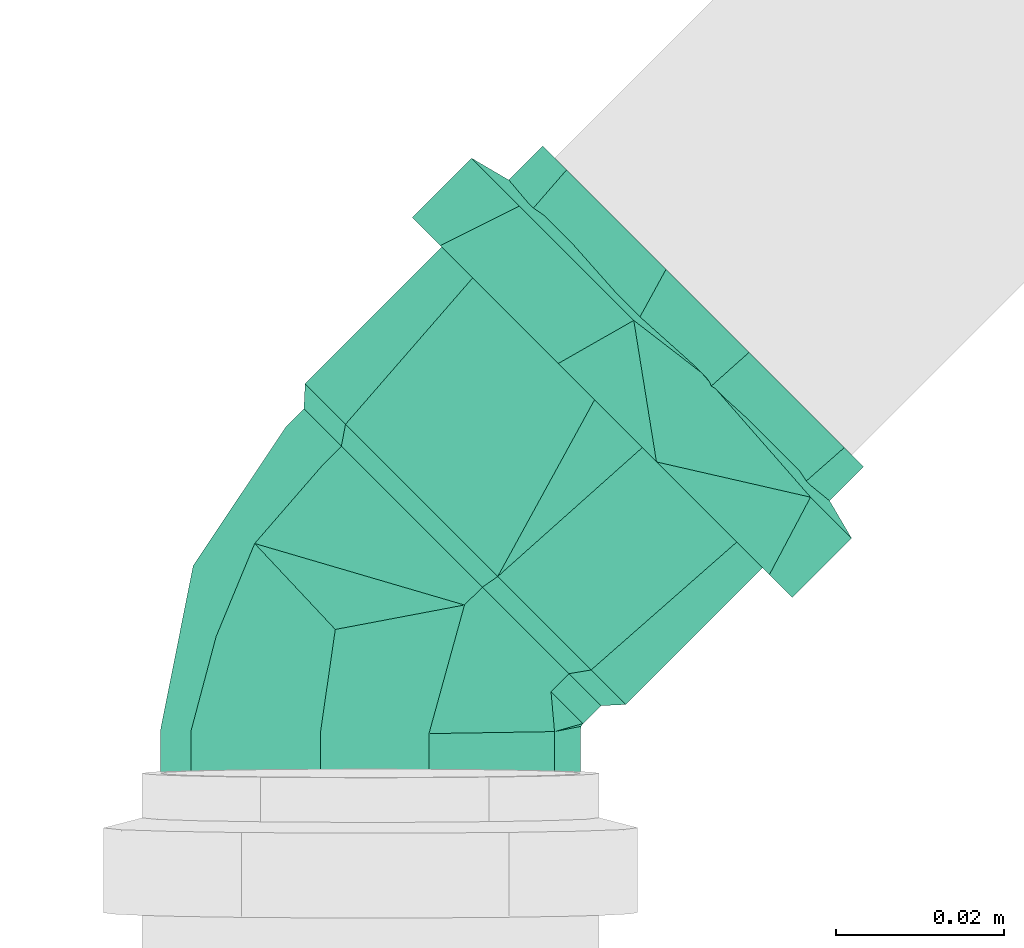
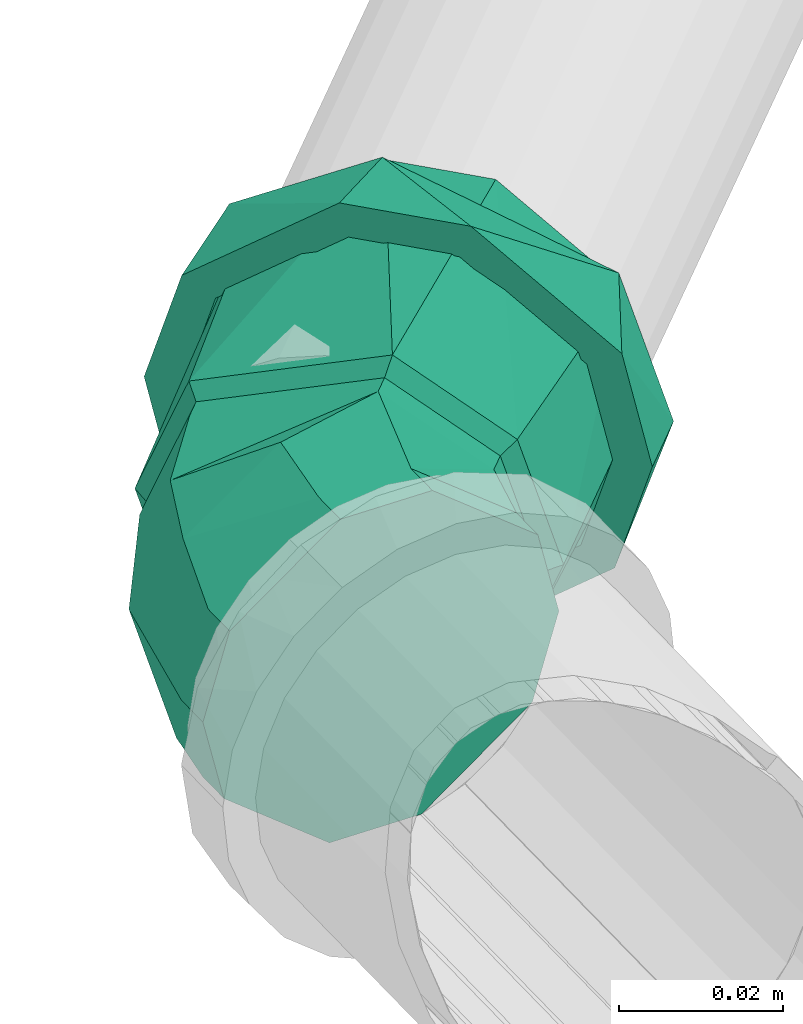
# One storey, part 64 of 589: 1 flow fitting.
"""IFC2X3 building model written with IfcOpenShell, lengths in millimetres."""

from ifc_helpers import new_model, entity, si_unit, converted_unit, derived_unit, direction, frame, origin, place, context, subcontext, project, spatial, faceted_brep, source, transform, mapped, material, type_object, type_shapes, element, save


model = new_model("IFC2X3")

# Units and contexts
model_context = context("Model", 3, precision=0.01, world=origin(), true_north=direction((6.123031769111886e-17, 1.0)))
body_context = subcontext(model_context, "Body", "Model", "MODEL_VIEW")
ifc_project = project(units=[si_unit("LENGTHUNIT", "METRE", prefix="MILLI"), si_unit("AREAUNIT", "SQUARE_METRE"), si_unit("VOLUMEUNIT", "CUBIC_METRE"), converted_unit("PLANEANGLEUNIT", "DEGREE", entity("IfcRatioMeasure", 0.017453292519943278), si_unit("PLANEANGLEUNIT", "RADIAN"), dimensions=[0, 0, 0, 0, 0, 0, 0]), si_unit("MASSUNIT", "GRAM", prefix="KILO"), derived_unit("MASSDENSITYUNIT", [(si_unit("MASSUNIT", "GRAM", prefix="KILO"), 1), (si_unit("LENGTHUNIT", "METRE"), -3)]), derived_unit("IONCONCENTRATIONUNIT", [(si_unit("MASSUNIT", "GRAM", prefix="KILO"), 1), (si_unit("LENGTHUNIT", "METRE"), -3)]), derived_unit("MOMENTOFINERTIAUNIT", [(si_unit("LENGTHUNIT", "METRE"), 4)]), si_unit("TIMEUNIT", "SECOND"), si_unit("FREQUENCYUNIT", "HERTZ"), si_unit("THERMODYNAMICTEMPERATUREUNIT", "DEGREE_CELSIUS"), derived_unit("THERMALTRANSMITTANCEUNIT", [(si_unit("MASSUNIT", "GRAM", prefix="KILO"), 1), (si_unit("THERMODYNAMICTEMPERATUREUNIT", "KELVIN"), -1), (si_unit("TIMEUNIT", "SECOND"), -3)]), derived_unit("THERMALCONDUCTANCEUNIT", [(si_unit("MASSUNIT", "GRAM", prefix="KILO"), 1), (si_unit("THERMODYNAMICTEMPERATUREUNIT", "KELVIN"), -1), (si_unit("TIMEUNIT", "SECOND"), -3), (si_unit("LENGTHUNIT", "METRE"), 1)]), derived_unit("VOLUMETRICFLOWRATEUNIT", [(si_unit("LENGTHUNIT", "METRE"), 3), (si_unit("TIMEUNIT", "SECOND"), -1)]), derived_unit("MASSFLOWRATEUNIT", [(si_unit("MASSUNIT", "GRAM", prefix="KILO"), 1), (si_unit("TIMEUNIT", "SECOND"), -1)]), derived_unit("ROTATIONALFREQUENCYUNIT", [(si_unit("TIMEUNIT", "SECOND"), -1)]), si_unit("ELECTRICCURRENTUNIT", "AMPERE"), si_unit("ELECTRICVOLTAGEUNIT", "VOLT"), si_unit("POWERUNIT", "WATT"), si_unit("FORCEUNIT", "NEWTON", prefix="KILO"), si_unit("ILLUMINANCEUNIT", "LUX"), si_unit("LUMINOUSFLUXUNIT", "LUMEN"), si_unit("LUMINOUSINTENSITYUNIT", "CANDELA"), derived_unit("USERDEFINED", [(si_unit("MASSUNIT", "GRAM", prefix="KILO"), -1), (si_unit("LENGTHUNIT", "METRE"), -2), (si_unit("TIMEUNIT", "SECOND"), 3), (si_unit("LUMINOUSFLUXUNIT", "LUMEN"), 1)]), derived_unit("USERDEFINED", [(si_unit("MASSUNIT", "GRAM", prefix="KILO"), 1), (si_unit("TIMEUNIT", "SECOND"), -3), (si_unit("LENGTHUNIT", "METRE"), 3), (si_unit("ELECTRICCURRENTUNIT", "AMPERE"), -2)]), derived_unit("SOUNDPOWERUNIT", [(si_unit("MASSUNIT", "GRAM", prefix="KILO"), 1), (si_unit("TIMEUNIT", "SECOND"), -3), (si_unit("LENGTHUNIT", "METRE"), 2)]), derived_unit("SOUNDPRESSUREUNIT", [(si_unit("MASSUNIT", "GRAM", prefix="KILO"), 1), (si_unit("LENGTHUNIT", "METRE"), -1), (si_unit("TIMEUNIT", "SECOND"), -2)]), derived_unit("LINEARVELOCITYUNIT", [(si_unit("LENGTHUNIT", "METRE"), 1), (si_unit("TIMEUNIT", "SECOND"), -1)]), si_unit("PRESSUREUNIT", "PASCAL"), derived_unit("USERDEFINED", [(si_unit("MASSUNIT", "GRAM", prefix="KILO"), 1), (si_unit("LENGTHUNIT", "METRE"), -2), (si_unit("TIMEUNIT", "SECOND"), -2)]), derived_unit("LINEARFORCEUNIT", [(si_unit("MASSUNIT", "GRAM", prefix="KILO"), 1), (si_unit("TIMEUNIT", "SECOND"), -2)]), derived_unit("PLANARFORCEUNIT", [(si_unit("MASSUNIT", "GRAM", prefix="KILO"), 1), (si_unit("LENGTHUNIT", "METRE"), -1), (si_unit("TIMEUNIT", "SECOND"), -2)]), derived_unit("SPECIFICHEATCAPACITYUNIT", [(si_unit("THERMODYNAMICTEMPERATUREUNIT", "KELVIN"), -1), (si_unit("LENGTHUNIT", "METRE"), 2), (si_unit("TIMEUNIT", "SECOND"), -2)]), derived_unit("HEATINGVALUEUNIT", [(si_unit("LENGTHUNIT", "METRE"), 2), (si_unit("TIMEUNIT", "SECOND"), -2)]), derived_unit("VAPORPERMEABILITYUNIT", [(si_unit("LENGTHUNIT", "METRE"), -1), (si_unit("TIMEUNIT", "SECOND"), 1)]), derived_unit("DYNAMICVISCOSITYUNIT", [(si_unit("MASSUNIT", "GRAM", prefix="KILO"), 1), (si_unit("TIMEUNIT", "SECOND"), -1), (si_unit("LENGTHUNIT", "METRE"), -1)]), derived_unit("THERMALEXPANSIONCOEFFICIENTUNIT", [(si_unit("THERMODYNAMICTEMPERATUREUNIT", "KELVIN"), -1)]), derived_unit("MODULUSOFELASTICITYUNIT", [(si_unit("MASSUNIT", "GRAM", prefix="KILO"), 1), (si_unit("LENGTHUNIT", "METRE"), -1), (si_unit("TIMEUNIT", "SECOND"), -2)]), derived_unit("ISOTHERMALMOISTURECAPACITYUNIT", [(si_unit("LENGTHUNIT", "METRE"), 3), (si_unit("MASSUNIT", "GRAM", prefix="KILO"), -1)]), derived_unit("MOISTUREDIFFUSIVITYUNIT", [(si_unit("TIMEUNIT", "SECOND"), -1), (si_unit("LENGTHUNIT", "METRE"), 2)])], contexts=[model_context])

# Site, building, storey
site_placement = place(None, origin())
site = spatial("IfcSite", under=ifc_project, at=site_placement, Name="Default", CompositionType="ELEMENT")
building_placement = place(site_placement, origin())
building = spatial("IfcBuilding", under=site, at=building_placement, CompositionType="ELEMENT")
storey_placement = place(building_placement, frame((0.0, 0.0, 100.0)))
storey = spatial("IfcBuildingStorey", under=building, at=storey_placement, Name="TÉRREO", CompositionType="ELEMENT", Elevation=100.0)

# Flow fitting
ifc_material = material(Name="PVC Série Normal")
pipe_fitting_type = type_object("IfcPipeFittingType", Name="PVC Esgoto_Joelho 45_90_Rodrigo MEP:a. Série Normal", PredefinedType="NOTDEFINED", material=ifc_material)
shared_shape = source(origin(), body_context, "Body", "Brep", [
    faceted_brep([(3.0396216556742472, 12.193302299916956, 24.14814565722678), (-7.696517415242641, 22.925149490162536, 12.500000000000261), (-10.06534948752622, 25.29303459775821, 0.0), (-7.696517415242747, 22.925149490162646, -12.499999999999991), (3.039621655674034, 12.19330229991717, -24.1481456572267), (12.192085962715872, 3.0444967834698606, -24.14814565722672), (22.928225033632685, -7.687350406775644, -12.500000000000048), (25.297057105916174, -10.05523551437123, 0.0), (22.928225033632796, -7.687350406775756, 12.499999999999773), (12.192085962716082, 3.0444967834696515, 24.148145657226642), (26.60444512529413, -4.009660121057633, -12.500000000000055), (15.868306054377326, 6.722187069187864, -24.14814565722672), (6.7158417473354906, 15.870992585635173, -24.1481456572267), (-4.020297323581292, 26.602839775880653, -12.499999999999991), (-6.389129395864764, 28.970724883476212, 0.0), (-4.020297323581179, 26.602839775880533, 12.500000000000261), (6.715841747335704, 15.87099258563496, 24.14814565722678), (15.868306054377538, 6.722187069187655, 24.148145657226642), (26.604445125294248, -4.009660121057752, 12.499999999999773), (28.973277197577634, -6.377545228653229, 0.0)], [[[0, 1, 2, 3, 4, 5, 6, 7, 8, 9]], [[10, 11, 12, 13, 14, 15, 16, 17, 18, 19]], [[7, 19, 18, 8]], [[8, 18, 17, 9]], [[17, 16, 0, 9]], [[0, 16, 15, 1]], [[1, 15, 14, 2]], [[2, 14, 13, 3]], [[3, 13, 12, 4]], [[12, 11, 5, 4]], [[5, 11, 10, 6]], [[6, 10, 19, 7]]]),
    faceted_brep([(-55.9725976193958, -6.988114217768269, -26.07999730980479), (-55.9725976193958, -6.47047612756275, -24.14814565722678), (-55.9725976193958, 6.4704761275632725, -24.148145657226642), (-55.9725976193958, -23.382685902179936, -13.499999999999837), (-55.9725976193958, 6.988114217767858, -26.0799973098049), (-55.9725976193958, -21.650635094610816, -12.500000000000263), (-55.9725976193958, -25.0, 0.0), (-55.9725976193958, -27.0, 0.0), (-55.9725976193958, -21.650635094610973, 12.499999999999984), (-55.9725976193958, -23.382685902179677, 13.500000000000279), (-55.9725976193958, -6.470476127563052, 24.1481456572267), (-55.9725976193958, -6.98811421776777, 26.079997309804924), (-55.9725976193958, 6.470476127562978, 24.14814565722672), (-55.9725976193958, 6.988114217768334, 26.07999730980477), (-55.9725976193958, 21.650635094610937, 12.500000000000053), (-55.9725976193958, 23.38268590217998, 13.499999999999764), (-55.9725976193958, 27.0, 0.0), (-55.9725976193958, 25.0, 0.0), (-55.9725976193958, 23.382685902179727, -13.500000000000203), (-55.9725976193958, 21.6506350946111, -12.499999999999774), (-15.9725976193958, 21.650635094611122, -12.499999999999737), (-15.9725976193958, 25.0, 0.0), (-15.9725976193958, 6.4704761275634, -24.148145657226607), (-15.9725976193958, -6.470476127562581, -24.148145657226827), (-15.9725976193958, -21.650635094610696, -12.500000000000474), (-15.9725976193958, -25.0, 0.0), (-15.9725976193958, -21.65063509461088, 12.500000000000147), (-15.9725976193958, -6.470476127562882, 24.14814565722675), (-15.9725976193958, 6.470476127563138, 24.148145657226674), (-15.9725976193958, 21.650635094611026, 12.499999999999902), (-15.9725976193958, 27.0, 0.0), (-15.972597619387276, 20.682232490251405, 17.356418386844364), (-15.972597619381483, 4.685536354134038, 26.59033187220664), (-15.972597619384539, -20.686585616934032, 17.35122979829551), (-15.9725976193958, -27.0, 0.0), (-15.972597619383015, -8.000524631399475, 21.970780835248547), (-15.972597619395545, -20.686585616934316, -17.35122979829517), (-15.972597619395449, -4.6922062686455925, -26.589155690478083), (-15.972597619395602, 20.682232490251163, -17.356418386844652), (-15.972597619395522, 7.995013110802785, -21.972787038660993), (-13.772597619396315, -4.338459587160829, -24.620677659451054), (-13.772597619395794, 25.0, 0.0), (-13.772597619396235, 19.154245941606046, -16.065953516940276), (-13.772597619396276, 7.40789317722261, -20.34331558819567), (-13.772597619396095, -19.15021526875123, -16.07075776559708), (-13.772597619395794, -25.0, 0.0), (-13.772597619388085, -19.150215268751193, 16.070757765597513), (-13.772597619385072, -7.402789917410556, 20.34517318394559), (-13.772597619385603, 19.154245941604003, 16.065953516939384), (-13.772597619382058, 4.344635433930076, 24.619588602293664), (-10.7725976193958, 25.0, 0.0), (-10.772597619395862, 19.151286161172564, 16.069481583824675), (-10.77259761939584, 4.341396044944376, 24.62016003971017), (-10.772597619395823, -7.404832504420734, 20.344954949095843), (-10.772597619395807, -19.15106105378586, 16.069749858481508), (-10.7725976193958, -25.0, 0.0), (-10.772597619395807, -19.15106105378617, -16.069749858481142), (-10.772597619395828, -4.341051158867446, -24.62022085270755), (-10.772597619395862, 19.15128616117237, -16.069481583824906), (-10.772597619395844, 7.405117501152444, -20.344851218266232), (22.928225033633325, -7.687350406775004, -12.500000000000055), (12.192085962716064, 3.0444967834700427, -24.14814565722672), (3.0396216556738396, 12.193302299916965, -24.1481456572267), (-7.696517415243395, 22.925149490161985, -12.499999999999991), (-10.065349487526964, 25.29303459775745, 0.0), (-7.696517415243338, 22.92514949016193, 12.500000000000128), (3.0396216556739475, 12.193302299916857, 24.14814565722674), (12.192085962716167, 3.044496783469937, 24.148145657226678), (22.928225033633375, -7.687350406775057, 12.499999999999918), (25.297057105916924, -10.055235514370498, 0.0), (1.706656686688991, -18.229960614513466, 15.057518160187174), (8.748967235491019, -21.11590501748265, 0.0), (12.77252502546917, -13.644950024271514, 14.852748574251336), (-3.6070347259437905, -23.574308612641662, 0.0), (2.15897029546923, -4.457370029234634, 23.97388512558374), (-10.389821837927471, 25.0761587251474, 0.0), (19.22293436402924, -14.11515207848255, 0.0), (12.769036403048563, -13.641969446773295, -14.858628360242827), (2.121435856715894, -4.511954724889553, -23.963323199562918), (1.7564938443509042, -18.24244270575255, -15.023571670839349)], [[[0, 1, 2]], [[1, 0, 3]], [[2, 4, 0]], [[3, 5, 1]], [[3, 6, 5]], [[6, 3, 7]], [[8, 6, 7]], [[8, 7, 9]], [[9, 10, 8]], [[9, 11, 10]], [[10, 11, 12]], [[13, 12, 11]], [[13, 14, 12]], [[14, 13, 15]], [[16, 14, 15]], [[17, 14, 16]], [[18, 17, 16]], [[18, 19, 17]], [[19, 18, 4]], [[4, 2, 19]], [[20, 21, 17, 19]], [[22, 20, 19, 2]], [[2, 1, 23, 22]], [[24, 23, 1, 5]], [[25, 24, 5, 6]], [[26, 25, 6, 8]], [[27, 26, 8, 10]], [[10, 12, 28, 27]], [[29, 28, 12, 14]], [[21, 29, 14, 17]], [[16, 15, 30]], [[15, 31, 30]], [[31, 15, 13]], [[31, 13, 32]], [[33, 11, 9]], [[34, 9, 7]], [[11, 33, 35, 32]], [[33, 9, 34]], [[11, 32, 13]], [[7, 3, 34]], [[3, 36, 34]], [[36, 3, 0]], [[36, 0, 37]], [[38, 4, 18]], [[30, 18, 16]], [[4, 38, 39, 37]], [[38, 18, 30]], [[4, 37, 0]], [[28, 29, 21, 20, 22, 23, 24, 25, 26, 27]], [[39, 40, 37]], [[41, 42, 30]], [[30, 42, 38]], [[38, 43, 39]], [[44, 45, 36]], [[38, 42, 43]], [[36, 37, 44]], [[34, 36, 45]], [[40, 39, 43]], [[44, 37, 40]], [[45, 46, 33]], [[33, 34, 45]], [[46, 35, 33]], [[46, 47, 35]], [[47, 32, 35]], [[48, 41, 30]], [[48, 31, 49]], [[31, 48, 30]], [[32, 47, 49]], [[49, 31, 32]], [[41, 48, 50]], [[48, 51, 50]], [[51, 48, 49]], [[51, 49, 52]], [[52, 47, 53]], [[46, 54, 53]], [[46, 45, 54]], [[49, 47, 52]], [[54, 45, 55]], [[47, 46, 53]], [[45, 44, 56]], [[45, 56, 55]], [[56, 44, 57]], [[58, 59, 43]], [[44, 40, 57]], [[40, 59, 57]], [[58, 43, 42]], [[42, 50, 58]], [[50, 42, 41]], [[59, 40, 43]], [[60, 61, 62, 63, 64, 65, 66, 67, 68, 69]], [[51, 52, 66]], [[70, 71, 72]], [[54, 55, 73]], [[70, 72, 74]], [[50, 65, 75]], [[51, 65, 50]], [[52, 70, 74]], [[76, 69, 68]], [[71, 70, 73]], [[72, 76, 68]], [[73, 70, 54]], [[76, 72, 71]], [[67, 72, 68]], [[75, 65, 64]], [[70, 52, 53, 54]], [[52, 74, 66]], [[66, 65, 51]], [[67, 74, 72]], [[67, 66, 74]], [[60, 76, 77]], [[73, 55, 56]], [[78, 58, 62]], [[78, 57, 59, 58]], [[79, 73, 56]], [[57, 78, 79]], [[61, 77, 78]], [[58, 50, 63]], [[75, 64, 63]], [[57, 79, 56]], [[60, 69, 76]], [[63, 62, 58]], [[79, 78, 77]], [[61, 60, 77]], [[76, 71, 77]], [[73, 79, 71]], [[79, 77, 71]], [[62, 61, 78]], [[63, 50, 75]]]),
    faceted_brep([(-38.9725976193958, 6.9881142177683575, -26.07999730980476), (-38.9725976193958, -6.988114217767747, -26.079997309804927), (-38.9725976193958, -8.282209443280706, -30.909626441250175), (-38.9725976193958, 8.28220944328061, -30.9096264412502), (-38.9725976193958, 23.38268590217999, -13.499999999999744), (-38.9725976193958, -27.712812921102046, -16.0), (-38.9725976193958, -23.38268590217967, -13.500000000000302), (-38.9725976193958, -27.0, 0.0), (-38.9725976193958, -32.0, 0.0), (-38.9725976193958, -23.382685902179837, 13.500000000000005), (-38.9725976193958, -27.712812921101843, 16.0), (-38.9725976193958, -6.988114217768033, 26.07999730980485), (-38.9725976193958, -8.28220944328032, 30.909626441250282), (-38.9725976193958, 6.988114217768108, 26.07999730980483), (-38.9725976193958, 8.282209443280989, 30.909626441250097), (-38.9725976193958, 23.382685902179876, 13.499999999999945), (-38.9725976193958, 27.712812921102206, 16.0), (-38.9725976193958, 32.0, 0.0), (-38.9725976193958, 27.0, 0.0), (-38.9725976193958, 27.712812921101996, -16.0), (-48.9725976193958, 27.0, 0.0), (-50.27259761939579, 27.0, 0.0), (-48.9725976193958, 25.191342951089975, -6.750000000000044), (-48.9725976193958, 23.38268590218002, -13.499999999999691), (-48.9725976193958, 19.284042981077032, -16.644999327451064), (-48.9725976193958, 15.185400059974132, -19.789998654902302), (-48.9725976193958, 11.086757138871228, -22.934997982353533), (-48.9725976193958, 6.988114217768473, -26.07999730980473), (-48.9725976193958, 0.0, -26.079997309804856), (-48.9725976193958, -6.988114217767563, -26.079997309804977), (-48.9725976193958, -11.086757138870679, -22.934997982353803), (-48.9725976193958, -15.185400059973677, -19.789998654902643), (-48.9725976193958, -19.284042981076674, -16.644999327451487), (-48.9725976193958, -23.382685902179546, -13.50000000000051), (-48.9725976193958, -25.191342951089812, -6.750000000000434), (-50.27259761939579, -27.0, 0.0), (-48.9725976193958, -27.0, 0.0), (-48.9725976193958, -25.19134295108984, 6.750000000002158), (-48.9725976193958, -23.382685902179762, 13.500000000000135), (-48.9725976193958, -19.284042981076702, 16.64499932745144), (-48.9725976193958, -15.185400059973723, 19.7899986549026), (-48.9725976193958, -11.086757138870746, 22.934997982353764), (-48.9725976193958, -6.988114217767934, 26.079997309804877), (-48.9725976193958, 0.0, 26.079997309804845), (-48.9725976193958, 6.988114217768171, 26.079997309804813), (-48.9725976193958, 11.086757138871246, 22.93499798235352), (-48.9725976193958, 15.185400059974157, 19.789998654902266), (-48.9725976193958, 19.284042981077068, 16.644999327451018), (-48.9725976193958, 23.382685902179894, 13.499999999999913), (-48.9725976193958, 25.19134295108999, 6.74999999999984), (-48.9725976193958, 32.0, 0.0), (-48.9725976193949, 24.512275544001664, 20.570569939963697), (-48.97259761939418, -5.561133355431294, 31.51307341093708), (-48.9725976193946, -24.51743480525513, 20.56442050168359), (-48.9725976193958, -32.0, 0.0), (-48.97259761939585, -24.51743480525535, -20.564420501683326), (-48.972597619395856, 5.553228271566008, -31.514467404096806), (-48.972597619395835, 24.512275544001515, -20.570569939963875), (-50.27259761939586, -23.84329280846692, -8.675614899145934), (-50.27259761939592, -20.686585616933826, -17.351229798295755), (-50.272597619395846, 23.841116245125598, -8.678209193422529), (-50.27259761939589, 20.6822324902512, -17.356418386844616), (-50.272597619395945, -12.689395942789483, -21.970192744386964), (-50.27259761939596, -4.692206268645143, -26.589155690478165), (-50.2725976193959, 14.338622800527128, -19.664602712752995), (-50.272597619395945, 1.6514034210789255, -24.280971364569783), (-50.272597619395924, 7.995013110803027, -21.97278703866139), (-50.272597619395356, 23.84111624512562, 8.678209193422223), (-50.2725976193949, 20.68223249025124, 17.35641838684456), (-50.2725976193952, -23.843292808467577, 8.675614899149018), (-50.27259761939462, -20.686585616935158, 17.351229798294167), (-50.27259761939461, 12.683884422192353, 21.973375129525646), (-50.272597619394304, 4.685536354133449, 26.590331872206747), (-50.27259761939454, -14.343555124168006, 19.66100531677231), (-50.27259761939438, -1.6574941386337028, 24.2805563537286), (-50.27259761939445, -8.000524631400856, 21.97078083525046)], [[[0, 1, 2]], [[2, 3, 0]], [[4, 0, 3]], [[5, 2, 1]], [[1, 6, 5]], [[6, 7, 5]], [[8, 5, 7]], [[8, 7, 9]], [[10, 8, 9]], [[9, 11, 10]], [[11, 12, 10]], [[13, 12, 11]], [[12, 13, 14]], [[13, 15, 14]], [[16, 14, 15]], [[16, 15, 17]], [[17, 15, 18]], [[18, 4, 19]], [[17, 18, 19]], [[3, 19, 4]], [[4, 18, 20, 21, 22, 23]], [[0, 4, 23, 24, 25, 26, 27]], [[0, 27, 28, 29, 1]], [[6, 1, 29, 30, 31, 32, 33]], [[7, 6, 33, 34, 35, 36]], [[9, 7, 36, 35, 37, 38]], [[11, 9, 38, 39, 40, 41, 42]], [[11, 42, 43, 44, 13]], [[15, 13, 44, 45, 46, 47, 48]], [[18, 15, 48, 49, 21, 20]], [[50, 51, 16]], [[50, 16, 17]], [[16, 51, 14]], [[51, 52, 14]], [[12, 52, 53]], [[10, 53, 54]], [[53, 10, 12]], [[10, 54, 8]], [[52, 12, 14]], [[54, 55, 5]], [[54, 5, 8]], [[5, 55, 2]], [[55, 56, 2]], [[3, 56, 57]], [[19, 57, 50]], [[57, 19, 3]], [[19, 50, 17]], [[56, 3, 2]], [[58, 33, 59]], [[23, 60, 61]], [[32, 31, 59, 33]], [[30, 29, 62, 31]], [[24, 23, 61, 25]], [[29, 28, 63]], [[26, 25, 64]], [[65, 63, 28]], [[31, 62, 59]], [[63, 62, 29]], [[60, 22, 21]], [[34, 58, 35]], [[66, 26, 64]], [[28, 27, 65]], [[27, 66, 65]], [[27, 26, 66]], [[64, 25, 61]], [[34, 33, 58]], [[60, 23, 22]], [[67, 48, 68]], [[38, 69, 70]], [[47, 46, 68, 48]], [[45, 44, 71, 46]], [[39, 38, 70, 40]], [[44, 43, 72]], [[41, 40, 73]], [[74, 72, 43]], [[46, 71, 68]], [[72, 71, 44]], [[69, 37, 35]], [[49, 67, 21]], [[75, 41, 73]], [[43, 42, 74]], [[42, 75, 74]], [[42, 41, 75]], [[73, 40, 70]], [[49, 48, 67]], [[69, 38, 37]], [[54, 35, 58, 59, 55]], [[55, 59, 62, 63]], [[55, 63, 56]], [[57, 61, 60, 21, 50]], [[57, 56, 61]], [[56, 63, 65, 66, 64, 61]], [[50, 21, 67, 68, 51]], [[51, 68, 71, 72]], [[51, 72, 52]], [[53, 70, 69, 35, 54]], [[53, 52, 70]], [[52, 72, 74, 75, 73, 70]]]),
])
type_shapes(pipe_fitting_type, [shared_shape])
flow_fitting_placement = place(storey_placement, frame((-8768.11696502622, -6511.293773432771, -109.95070554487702), z_axis=(0.019992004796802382, -0.01999200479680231, 0.999600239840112), x_axis=(-0.7071067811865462, -0.7071067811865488, 0.0)))
element("IfcFlowFitting", 1, at=flow_fitting_placement, inside=storey, type_object=pipe_fitting_type, material=ifc_material, Name="PVC Esgoto_Joelho 45_90_Rodrigo MEP:a. Série Normal", ObjectType="PVC Esgoto_Joelho 45_90_Rodrigo MEP:a. Série Normal", context=body_context, shape_type="MappedRepresentation", body=[
    mapped(shared_shape, transform((0.0, 0.0, 0.0), scale=1.0)),
])

save(model, "model.ifc")
